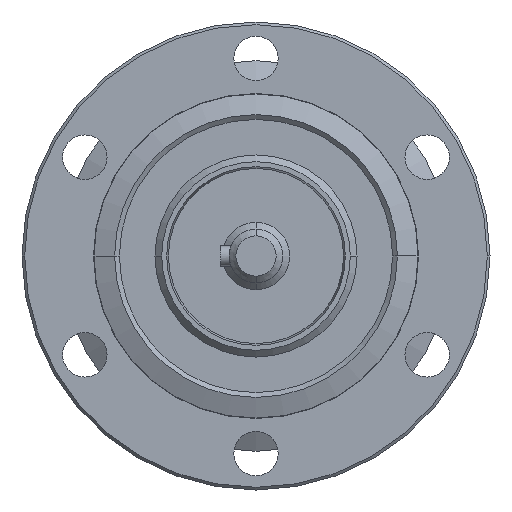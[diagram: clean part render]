
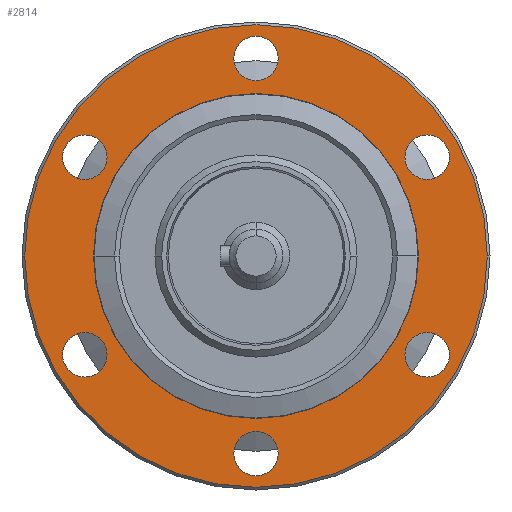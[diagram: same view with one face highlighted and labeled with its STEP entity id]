
A CAD part, left-side view. The second image highlights one B-rep face of the part: STEP entity #2814.
In plain terms, the highlighted planar face has unit normal (-1, 0, 0).
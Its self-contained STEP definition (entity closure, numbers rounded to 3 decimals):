
#471=CARTESIAN_POINT('',(11.5,24.125,0.0));
#472=VERTEX_POINT('',#471);
#481=CARTESIAN_POINT('',(11.5,-24.125,0.));
#482=VERTEX_POINT('',#481);
#483=CARTESIAN_POINT('',(11.5,0.0,0.0));
#484=DIRECTION('',(1.0,0.0,0.0));
#485=DIRECTION('',(0.0,1.0,0.0));
#486=AXIS2_PLACEMENT_3D('',#483,#484,#485);
#487=CIRCLE('',#486,24.125);
#488=EDGE_CURVE('',#482,#472,#487,.T.);
#1029=CARTESIAN_POINT('',(11.5,-34.35,0.));
#1030=VERTEX_POINT('',#1029);
#1039=CARTESIAN_POINT('',(11.5,34.35,0.0));
#1040=VERTEX_POINT('',#1039);
#1041=CARTESIAN_POINT('',(11.5,0.0,0.0));
#1042=DIRECTION('',(1.0,0.0,0.0));
#1043=DIRECTION('',(0.0,-1.0,0.0));
#1044=AXIS2_PLACEMENT_3D('',#1041,#1042,#1043);
#1045=CIRCLE('',#1044,34.35);
#1046=EDGE_CURVE('',#1030,#1040,#1045,.T.);
#1170=CARTESIAN_POINT('',(11.5,0.0,-26.05));
#1171=VERTEX_POINT('',#1170);
#1187=CARTESIAN_POINT('',(11.5,0.,-32.65));
#1188=VERTEX_POINT('',#1187);
#1195=CARTESIAN_POINT('',(11.5,0.0,-29.35));
#1196=DIRECTION('',(1.0,0.0,0.0));
#1197=DIRECTION('',(0.0,0.0,1.0));
#1198=AXIS2_PLACEMENT_3D('',#1195,#1196,#1197);
#1199=CIRCLE('',#1198,3.3);
#1200=EDGE_CURVE('',#1171,#1188,#1199,.T.);
#1233=CARTESIAN_POINT('',(11.5,22.56,-13.025));
#1234=VERTEX_POINT('',#1233);
#1250=CARTESIAN_POINT('',(11.5,28.276,-16.325));
#1251=VERTEX_POINT('',#1250);
#1258=CARTESIAN_POINT('',(11.5,25.418,-14.675));
#1259=DIRECTION('',(1.0,0.0,0.0));
#1260=DIRECTION('',(0.0,-0.866,0.5));
#1261=AXIS2_PLACEMENT_3D('',#1258,#1259,#1260);
#1262=CIRCLE('',#1261,3.3);
#1263=EDGE_CURVE('',#1234,#1251,#1262,.T.);
#1296=CARTESIAN_POINT('',(11.5,22.56,13.025));
#1297=VERTEX_POINT('',#1296);
#1313=CARTESIAN_POINT('',(11.5,28.276,16.325));
#1314=VERTEX_POINT('',#1313);
#1321=CARTESIAN_POINT('',(11.5,25.418,14.675));
#1322=DIRECTION('',(1.,0.0,0.0));
#1323=DIRECTION('',(0.0,-0.866,-0.5));
#1324=AXIS2_PLACEMENT_3D('',#1321,#1322,#1323);
#1325=CIRCLE('',#1324,3.3);
#1326=EDGE_CURVE('',#1297,#1314,#1325,.T.);
#1359=CARTESIAN_POINT('',(11.5,0.,26.05));
#1360=VERTEX_POINT('',#1359);
#1376=CARTESIAN_POINT('',(11.5,0.,32.65));
#1377=VERTEX_POINT('',#1376);
#1384=CARTESIAN_POINT('',(11.5,0.,29.35));
#1385=DIRECTION('',(1.0,0.0,0.0));
#1386=DIRECTION('',(0.0,0.0,-1.0));
#1387=AXIS2_PLACEMENT_3D('',#1384,#1385,#1386);
#1388=CIRCLE('',#1387,3.3);
#1389=EDGE_CURVE('',#1360,#1377,#1388,.T.);
#1422=CARTESIAN_POINT('',(11.5,-22.56,13.025));
#1423=VERTEX_POINT('',#1422);
#1439=CARTESIAN_POINT('',(11.5,-28.276,16.325));
#1440=VERTEX_POINT('',#1439);
#1447=CARTESIAN_POINT('',(11.5,-25.418,14.675));
#1448=DIRECTION('',(1.0,0.0,0.0));
#1449=DIRECTION('',(0.0,0.866,-0.5));
#1450=AXIS2_PLACEMENT_3D('',#1447,#1448,#1449);
#1451=CIRCLE('',#1450,3.3);
#1452=EDGE_CURVE('',#1423,#1440,#1451,.T.);
#1485=CARTESIAN_POINT('',(11.5,-22.56,-13.025));
#1486=VERTEX_POINT('',#1485);
#1502=CARTESIAN_POINT('',(11.5,-28.276,-16.325));
#1503=VERTEX_POINT('',#1502);
#1510=CARTESIAN_POINT('',(11.5,-25.418,-14.675));
#1511=DIRECTION('',(1.,0.0,0.0));
#1512=DIRECTION('',(0.0,0.866,0.5));
#1513=AXIS2_PLACEMENT_3D('',#1510,#1511,#1512);
#1514=CIRCLE('',#1513,3.3);
#1515=EDGE_CURVE('',#1486,#1503,#1514,.T.);
#2427=CARTESIAN_POINT('',(11.5,-25.418,-14.675));
#2428=DIRECTION('',(1.,0.0,0.0));
#2429=DIRECTION('',(0.0,0.866,0.5));
#2430=AXIS2_PLACEMENT_3D('',#2427,#2428,#2429);
#2431=CIRCLE('',#2430,3.3);
#2432=EDGE_CURVE('',#1503,#1486,#2431,.T.);
#2472=CARTESIAN_POINT('',(11.5,-25.418,14.675));
#2473=DIRECTION('',(1.0,0.0,0.0));
#2474=DIRECTION('',(0.0,0.866,-0.5));
#2475=AXIS2_PLACEMENT_3D('',#2472,#2473,#2474);
#2476=CIRCLE('',#2475,3.3);
#2477=EDGE_CURVE('',#1440,#1423,#2476,.T.);
#2517=CARTESIAN_POINT('',(11.5,0.,29.35));
#2518=DIRECTION('',(1.0,0.0,0.0));
#2519=DIRECTION('',(0.0,0.0,-1.0));
#2520=AXIS2_PLACEMENT_3D('',#2517,#2518,#2519);
#2521=CIRCLE('',#2520,3.3);
#2522=EDGE_CURVE('',#1377,#1360,#2521,.T.);
#2562=CARTESIAN_POINT('',(11.5,25.418,14.675));
#2563=DIRECTION('',(1.,0.0,0.0));
#2564=DIRECTION('',(0.0,-0.866,-0.5));
#2565=AXIS2_PLACEMENT_3D('',#2562,#2563,#2564);
#2566=CIRCLE('',#2565,3.3);
#2567=EDGE_CURVE('',#1314,#1297,#2566,.T.);
#2607=CARTESIAN_POINT('',(11.5,25.418,-14.675));
#2608=DIRECTION('',(1.0,0.0,0.0));
#2609=DIRECTION('',(0.0,-0.866,0.5));
#2610=AXIS2_PLACEMENT_3D('',#2607,#2608,#2609);
#2611=CIRCLE('',#2610,3.3);
#2612=EDGE_CURVE('',#1251,#1234,#2611,.T.);
#2652=CARTESIAN_POINT('',(11.5,0.0,-29.35));
#2653=DIRECTION('',(1.0,0.0,0.0));
#2654=DIRECTION('',(0.0,0.0,1.0));
#2655=AXIS2_PLACEMENT_3D('',#2652,#2653,#2654);
#2656=CIRCLE('',#2655,3.3);
#2657=EDGE_CURVE('',#1188,#1171,#2656,.T.);
#2761=CARTESIAN_POINT('',(11.5,0.0,0.0));
#2762=DIRECTION('',(1.0,0.0,0.0));
#2763=DIRECTION('',(0.0,-1.0,0.0));
#2764=AXIS2_PLACEMENT_3D('',#2761,#2762,#2763);
#2765=CIRCLE('',#2764,34.35);
#2766=EDGE_CURVE('',#1040,#1030,#2765,.T.);
#2771=CARTESIAN_POINT('',(11.5,29.438,0.0));
#2772=DIRECTION('',(-1.0,0.0,0.0));
#2773=DIRECTION('',(0.0,0.0,1.0));
#2774=AXIS2_PLACEMENT_3D('',#2771,#2772,#2773);
#2775=PLANE('',#2774);
#2776=ORIENTED_EDGE('',*,*,#2766,.F.);
#2777=ORIENTED_EDGE('',*,*,#1046,.F.);
#2778=EDGE_LOOP('',(#2776,#2777));
#2779=FACE_OUTER_BOUND('',#2778,.T.);
#2780=ORIENTED_EDGE('',*,*,#1515,.T.);
#2781=ORIENTED_EDGE('',*,*,#2432,.T.);
#2782=EDGE_LOOP('',(#2780,#2781));
#2783=FACE_BOUND('',#2782,.T.);
#2784=ORIENTED_EDGE('',*,*,#1452,.T.);
#2785=ORIENTED_EDGE('',*,*,#2477,.T.);
#2786=EDGE_LOOP('',(#2784,#2785));
#2787=FACE_BOUND('',#2786,.T.);
#2788=ORIENTED_EDGE('',*,*,#1389,.T.);
#2789=ORIENTED_EDGE('',*,*,#2522,.T.);
#2790=EDGE_LOOP('',(#2788,#2789));
#2791=FACE_BOUND('',#2790,.T.);
#2792=ORIENTED_EDGE('',*,*,#1326,.T.);
#2793=ORIENTED_EDGE('',*,*,#2567,.T.);
#2794=EDGE_LOOP('',(#2792,#2793));
#2795=FACE_BOUND('',#2794,.T.);
#2796=ORIENTED_EDGE('',*,*,#1263,.T.);
#2797=ORIENTED_EDGE('',*,*,#2612,.T.);
#2798=EDGE_LOOP('',(#2796,#2797));
#2799=FACE_BOUND('',#2798,.T.);
#2800=ORIENTED_EDGE('',*,*,#1200,.T.);
#2801=ORIENTED_EDGE('',*,*,#2657,.T.);
#2802=EDGE_LOOP('',(#2800,#2801));
#2803=FACE_BOUND('',#2802,.T.);
#2804=CARTESIAN_POINT('',(11.5,0.0,0.0));
#2805=DIRECTION('',(1.0,0.0,0.0));
#2806=DIRECTION('',(0.0,1.0,0.0));
#2807=AXIS2_PLACEMENT_3D('',#2804,#2805,#2806);
#2808=CIRCLE('',#2807,24.125);
#2809=EDGE_CURVE('',#472,#482,#2808,.T.);
#2810=ORIENTED_EDGE('',*,*,#2809,.T.);
#2811=ORIENTED_EDGE('',*,*,#488,.T.);
#2812=EDGE_LOOP('',(#2810,#2811));
#2813=FACE_BOUND('',#2812,.T.);
#2814=ADVANCED_FACE('',(#2779,#2783,#2787,#2791,#2795,#2799,#2803,#2813),#2775,.T.);
